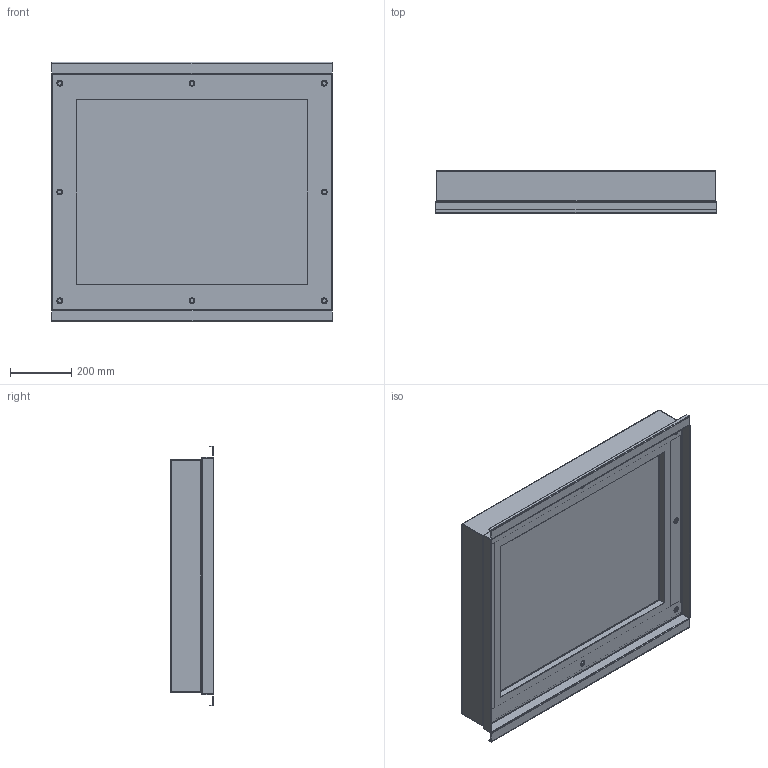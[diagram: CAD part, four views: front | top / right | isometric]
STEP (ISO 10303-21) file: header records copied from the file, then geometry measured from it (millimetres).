
FILE_DESCRIPTION (( 'STEP AP203' ), '1' );
FILE_NAME ('wfhd3st3630.STEP', '2011-06-14T17:43:08', ( 'Hoffman User' ), ( 'Hoffman Enclosures' ), 'SwSTEP 2.0', 'SolidWorks 2010', '' );
FILE_SCHEMA (( 'CONFIG_CONTROL_DESIGN' ));
Length unit declared in the file: inch
Products named in the file (3): wfhd3st3630; 89049889; 89049890
Assembly tree (2 placements, depth 2):
  wfhd3st3630
    89049889
    89049890
Bounding box: 921 x 139.7 x 847.09 mm (x, y, z)
Volume: 3312474.3 mm3; surface area: 3284568 mm2
Topology: 2 solids, 2 shells, 188 faces, 424 edges, 240 vertices
Faces by surface type: plane 108, cylinder 64, bspline 16
Entity records: 6143 total; most frequent: CARTESIAN_POINT 1721, ORIENTED_EDGE 848, DIRECTION 818, EDGE_CURVE 424, AXIS2_PLACEMENT_3D 273, VECTOR 272, LINE 272, VERTEX_POINT 240
